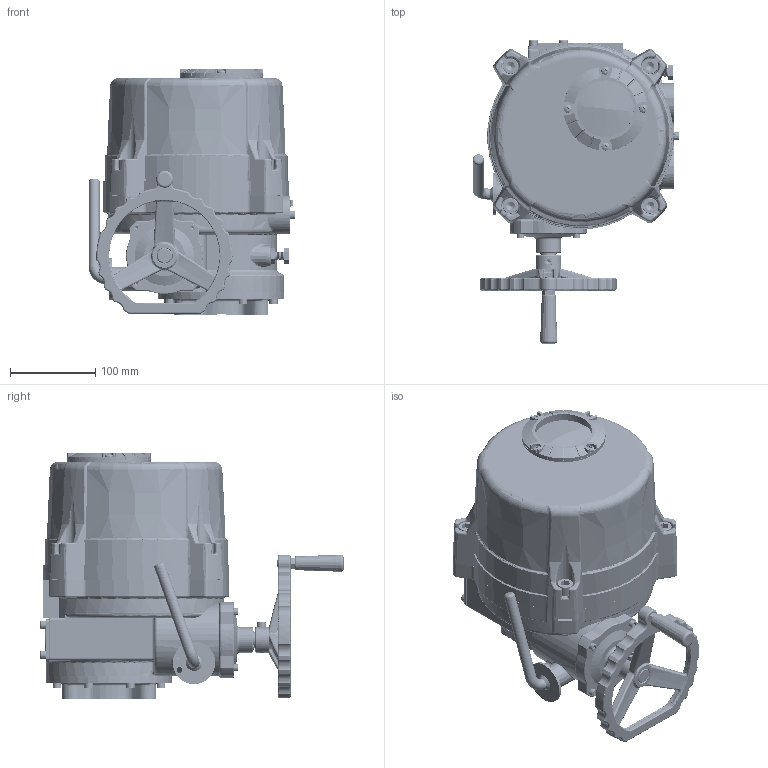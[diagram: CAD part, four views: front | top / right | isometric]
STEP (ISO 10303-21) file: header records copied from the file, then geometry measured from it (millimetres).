
FILE_DESCRIPTION(('Open CASCADE Model'),'2;1');
FILE_NAME('Open CASCADE Shape Model','2023-01-26T09:13:58',('Author'),( 'Open CASCADE'),'Open CASCADE STEP processor 7.3','Open CASCADE 7.3' ,'Unknown');
FILE_SCHEMA(('AUTOMOTIVE_DESIGN { 1 0 10303 214 1 1 1 1 }'));
Length unit declared in the file: millimetre
Products named in the file (121): Open CASCADE STEP translator 7.3 1; Open CASCADE STEP translator 7.3 1.1; Open CASCADE STEP translator 7.3 1.2; Open CASCADE STEP translator 7.3 1.3; Open CASCADE STEP translator 7.3 1.4; Open CASCADE STEP translator 7.3 1.5; Open CASCADE STEP translator 7.3 1.6; Open CASCADE STEP translator 7.3 1.7; Open CASCADE STEP translator 7.3 1.8; Open CASCADE STEP translator 7.3 1.9; Open CASCADE STEP translator 7.3 1.10; Open CASCADE STEP translator 7.3 1.11; Open CASCADE STEP translator 7.3 1.12; Open CASCADE STEP translator 7.3 1.13; Open CASCADE STEP translator 7.3 1.14; Open CASCADE STEP translator 7.3 1.15; Open CASCADE STEP translator 7.3 1.16; Open CASCADE STEP translator 7.3 1.17; Open CASCADE STEP translator 7.3 1.18; Open CASCADE STEP translator 7.3 1.19; Open CASCADE STEP translator 7.3 1.20; Open CASCADE STEP translator 7.3 1.21; Open CASCADE STEP translator 7.3 1.22; Open CASCADE STEP translator 7.3 1.23; Open CASCADE STEP translator 7.3 1.24; Open CASCADE STEP translator 7.3 1.25; Open CASCADE STEP translator 7.3 1.26; Open CASCADE STEP translator 7.3 1.27; Open CASCADE STEP translator 7.3 1.28; Open CASCADE STEP translator 7.3 1.29; Open CASCADE STEP translator 7.3 1.30; Open CASCADE STEP translator 7.3 1.31; Open CASCADE STEP translator 7.3 1.32; Open CASCADE STEP translator 7.3 1.33; Open CASCADE STEP translator 7.3 1.34; Open CASCADE STEP translator 7.3 1.35; Open CASCADE STEP translator 7.3 1.36; Open CASCADE STEP translator 7.3 1.37; Open CASCADE STEP translator 7.3 1.38; Open CASCADE STEP translator 7.3 1.39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
Assembly tree (120 placements, depth 2):
  Open CASCADE STEP translator 7.3 1
    Open CASCADE STEP translator 7.3 1.1
    Open CASCADE STEP translator 7.3 1.2
    Open CASCADE STEP translator 7.3 1.3
    Open CASCADE STEP translator 7.3 1.4
    Open CASCADE STEP translator 7.3 1.5
    Open CASCADE STEP translator 7.3 1.6
    Open CASCADE STEP translator 7.3 1.7
    Open CASCADE STEP translator 7.3 1.8
    Open CASCADE STEP translator 7.3 1.9
    Open CASCADE STEP translator 7.3 1.10
    Open CASCADE STEP translator 7.3 1.11
    Open CASCADE STEP translator 7.3 1.12
    Open CASCADE STEP translator 7.3 1.13
    Open CASCADE STEP translator 7.3 1.14
    Open CASCADE STEP translator 7.3 1.15
    Open CASCADE STEP translator 7.3 1.16
    Open CASCADE STEP translator 7.3 1.17
    Open CASCADE STEP translator 7.3 1.18
    Open CASCADE STEP translator 7.3 1.19
    Open CASCADE STEP translator 7.3 1.20
    Open CASCADE STEP translator 7.3 1.21
    Open CASCADE STEP translator 7.3 1.22
    Open CASCADE STEP translator 7.3 1.23
    Open CASCADE STEP translator 7.3 1.24
    Open CASCADE STEP translator 7.3 1.25
    Open CASCADE STEP translator 7.3 1.26
    Open CASCADE STEP translator 7.3 1.27
    Open CASCADE STEP translator 7.3 1.28
    Open CASCADE STEP translator 7.3 1.29
    Open CASCADE STEP translator 7.3 1.30
    Open CASCADE STEP translator 7.3 1.31
    Open CASCADE STEP translator 7.3 1.32
    Open CASCADE STEP translator 7.3 1.33
    Open CASCADE STEP translator 7.3 1.34
    Open CASCADE STEP translator 7.3 1.35
    Open CASCADE STEP translator 7.3 1.36
    Open CASCADE STEP translator 7.3 1.37
    Open CASCADE STEP translator 7.3 1.38
    Open CASCADE STEP translator 7.3 1.39
    Open CASCADE STEP translator 7.3 1.40
    Open CASCADE STEP translator 7.3 1.41
    Open CASCADE STEP translator 7.3 1.42
    Open CASCADE STEP translator 7.3 1.43
    Open CASCADE STEP translator 7.3 1.44
    Open CASCADE STEP translator 7.3 1.45
    Open CASCADE STEP translator 7.3 1.46
    Open CASCADE STEP translator 7.3 1.47
    Open CASCADE STEP translator 7.3 1.48
    Open CASCADE STEP translator 7.3 1.49
    Open CASCADE STEP translator 7.3 1.50
    Open CASCADE STEP translator 7.3 1.51
    Open CASCADE STEP translator 7.3 1.52
    Open CASCADE STEP translator 7.3 1.53
    Open CASCADE STEP translator 7.3 1.54
    Open CASCADE STEP translator 7.3 1.55
    Open CASCADE STEP translator 7.3 1.56
    Open CASCADE STEP translator 7.3 1.57
    Open CASCADE STEP translator 7.3 1.58
    Open CASCADE STEP translator 7.3 1.59
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Bounding box: 242.8 x 356.15 x 290 mm (x, y, z)
Volume: 2899297.9 mm3; surface area: 941790.3 mm2
Topology: 120 solids, 120 shells, 11129 faces, 28244 edges, 17225 vertices
Faces by surface type: cone 3923, cylinder 3805, plane 1823, torus 899, bspline 556, sphere 99, revolution 24
Entity records: 944047 total; most frequent: CARTESIAN_POINT 391319, DIRECTION 104982, ORIENTED_EDGE 55816, PCURVE 55816, DEFINITIONAL_REPRESENTATION 55816, LINE 53983, VECTOR 53983, EDGE_CURVE 27908
